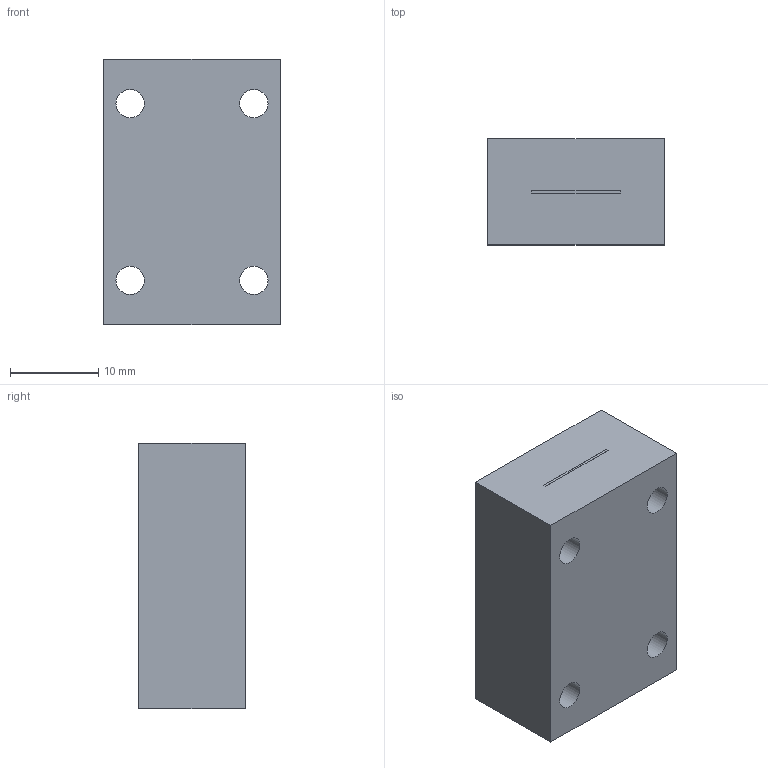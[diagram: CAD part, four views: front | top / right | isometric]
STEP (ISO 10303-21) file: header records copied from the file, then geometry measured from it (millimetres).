
FILE_DESCRIPTION(/* description */ ('LWL Typ-Q2-(10x0.3)'),/* implementation_level */ '2;1');
FILE_NAME(/* name */ 'T:\E-Mail-Zeichnungen\STEP\HOMEPAGE\LWL_Typ-Q2_10x0.3.stp',/* time_stamp */ '2015-04-20T12:36:38+02:00',/* author */ ('simone.schrank'),/* organization */ (''),/* preprocessor_version */ 'ST-DEVELOPER v15.6',/* originating_system */ 'Autodesk Inventor 2015',/* authorisation */ '');
FILE_SCHEMA (('AUTOMOTIVE_DESIGN { 1 0 10303 214 3 1 1 }'));
Length unit declared in the file: millimetre
Products named in the file (1): LWL_Typ-Q2_10x0.3
Bounding box: 20 x 12 x 30 mm (x, y, z)
Volume: 6810.5 mm3; surface area: 2820.5 mm2
Topology: 1 solids, 1 shells, 17 faces, 43 edges, 30 vertices
Faces by surface type: plane 12, cylinder 5
Full cylindrical faces by diameter (mm): 3.2 x4, 6.6 x1
Entity records: 510 total; most frequent: DIRECTION 80, CARTESIAN_POINT 78, ORIENTED_EDGE 68, EDGE_CURVE 34, EDGE_LOOP 32, AXIS2_PLACEMENT_3D 28, VERTEX_POINT 26, LINE 24
